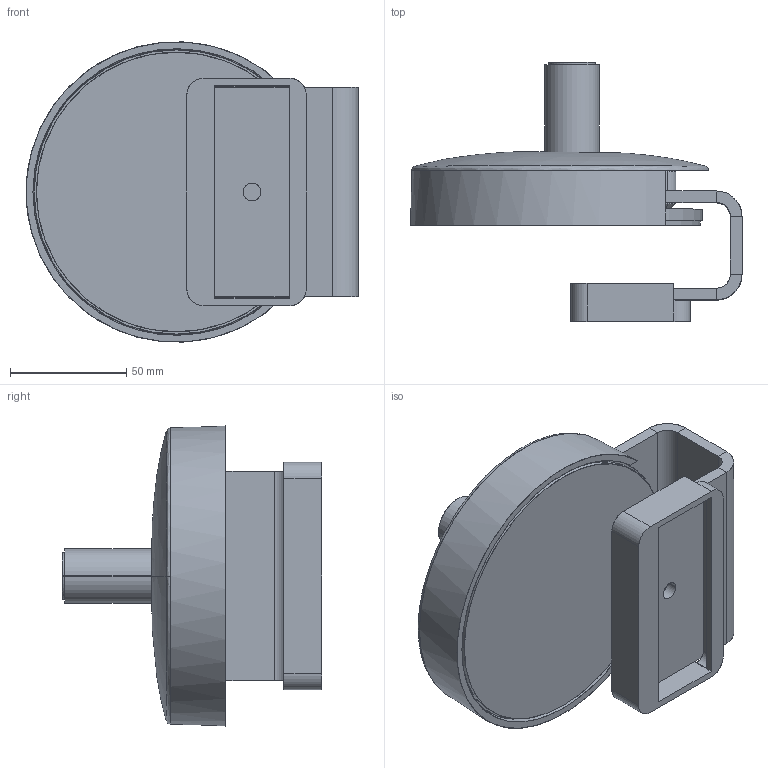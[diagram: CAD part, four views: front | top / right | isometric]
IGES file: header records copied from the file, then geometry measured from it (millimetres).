
Start section: SolidWorks IGES file using analytic representation for surfaces
Global section: file name: C:\Users\acaphr\OneDrive - Herman Miller\HLA\Customer CAD\Files for Website\Top Mount\P077-Top Mount Clamp.IGS; native system: SolidWorks 2022; preprocessor: SolidWorks 2022; author: ACAPHR; date: 221003.110217; units: millimetre
Bounding box: 142.5 x 111.33 x 128.87 mm (x, y, z)
Surface area: 158783.7 mm2 (no closed solid volume)
Topology: 0 solids, 0 shells, 283 faces, 4294 edges, 4294 vertices
Faces by surface type: bspline 158, revolution 125
